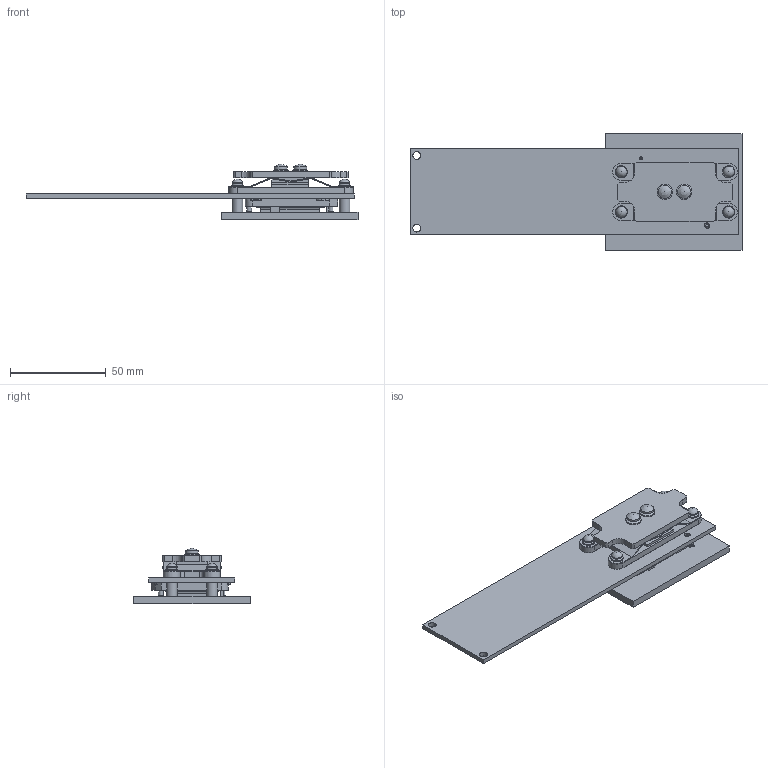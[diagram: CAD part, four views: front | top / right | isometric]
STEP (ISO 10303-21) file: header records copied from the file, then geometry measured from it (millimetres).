
FILE_DESCRIPTION((''),'2;1');
FILE_NAME('C:\Work\Temporary-CAD1\Imported Components\2503737B\2503737-Mounting-Concept.stp','2010-05-02T15:36:46',('a0130832'),(''),'Autodesk Inventor 2010','Autodesk Inventor 2010','');
FILE_SCHEMA(('AUTOMOTIVE_DESIGN { 1 0 10303 214 1 1 1 1 }'));
Length unit declared in the file: millimetre
Products named in the file (20): 2503737-Mounting-Concept; 2503321-Interface; DMD-Electronics-assy; 2503867-PCB-322; 2503000-Interposer-7TA; 2502999-IntFrame; 2501795-ContactHousing; 2507867-7xga-7typeA; TA-7-STEP-Ceramic; TA-7-STEP-WGlass; ThermPad-7xga-TA; ElecPad-7xga-TA; 2503868-Backer; Thermal-Pad-7TA; 2503734-STUD; HDWR2; 2501930-HeatSpreader; HDWR1; 2503644-Kapton; 2503731-Assy-Flat-Spring
Assembly tree (225 placements, depth 4):
  2503737-Mounting-Concept
    2503321-Interface
    DMD-Electronics-assy
      2503867-PCB-322
      2503000-Interposer-7TA
        2502999-IntFrame
        2501795-ContactHousing
      2507867-7xga-7typeA
        TA-7-STEP-Ceramic
        TA-7-STEP-WGlass
        ThermPad-7xga-TA
        ElecPad-7xga-TA  x203
    2503868-Backer
    Thermal-Pad-7TA
    2503734-STUD
    HDWR2  x4
    2501930-HeatSpreader
    HDWR1  x2
    2503644-Kapton
    2503731-Assy-Flat-Spring
Bounding box: 173.49 x 60.96 x 28.93 mm (x, y, z)
Volume: 51928.3 mm3; surface area: 53398.6 mm2
Topology: 222 solids, 222 shells, 1161 faces, 2045 edges, 1349 vertices
Faces by surface type: plane 761, cylinder 355, bspline 20, cone 15, sphere 10
Full cylindrical faces by diameter (mm): 1.2 x2, 1.372 x203, 1.45 x1, 1.5 x2, 1.65 x2, 2 x2, 2.083 x1, 2.425 x1, 2.5 x2, 2.7 x2, 3 x8, 3.505 x2, 4 x12, 4.216 x2, 5 x4, 5.5 x4, 5.6 x4, 6.4 x4, 6.858 x2, 8.128 x2
Entity records: 18180 total; most frequent: CARTESIAN_POINT 3105, DIRECTION 3096, ORIENTED_EDGE 2598, EDGE_CURVE 1299, AXIS2_PLACEMENT_3D 1054, VECTOR 988, LINE 988, VERTEX_POINT 892
